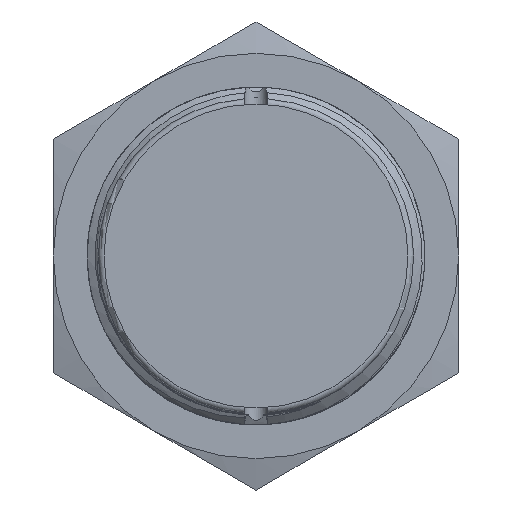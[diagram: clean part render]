
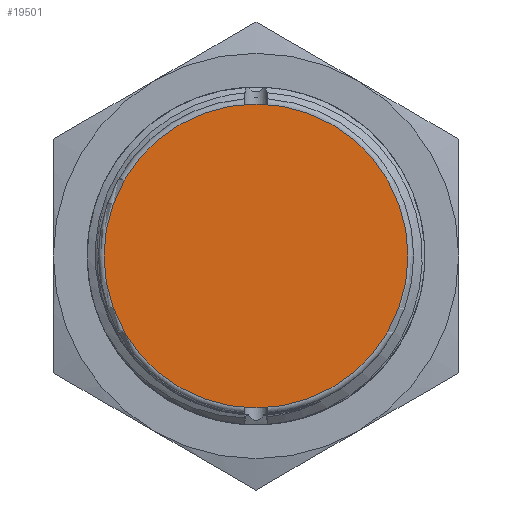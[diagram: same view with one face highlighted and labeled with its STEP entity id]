
A CAD part, left-side view. The second image highlights one B-rep face of the part: STEP entity #19501.
In plain terms, the highlighted planar face has unit normal (-1, 0, 0).
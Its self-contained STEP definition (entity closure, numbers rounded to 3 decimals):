
#8307=CARTESIAN_POINT('',(0.,0.,0.));
#8308=DIRECTION('',(-1.,0.,0.));
#8309=DIRECTION('',(0.,0.,-1.));
#8310=AXIS2_PLACEMENT_3D('',#8307,#8308,#8309);
#8320=CARTESIAN_POINT('',(0.,0.,13.5));
#8397=CARTESIAN_POINT('',(0.,0.,0.));
#8398=DIRECTION('',(-1.,0.,0.));
#8399=DIRECTION('',(0.,0.,1.));
#8400=AXIS2_PLACEMENT_3D('',#8397,#8398,#8399);
#8410=CARTESIAN_POINT('',(0.,0.,-13.5));
#11922=VERTEX_POINT('',#8320);
#11943=VERTEX_POINT('',#8410);
#19492=CARTESIAN_POINT('',(0.,0.,0.));
#19493=DIRECTION('',(-1.,0.,0.));
#19494=DIRECTION('',(0.,1.,0.));
#19495=AXIS2_PLACEMENT_3D('',#19492,#19493,#19494);
#19496=PLANE('',#19495);
#19497=ORIENTED_EDGE('',*,*,#19473,.F.);
#19498=ORIENTED_EDGE('',*,*,#19429,.F.);
#19499=EDGE_LOOP('',(#19497,#19498));
#19500=FACE_OUTER_BOUND('',#19499,.F.);
#8311=CIRCLE('',#8310,13.5);
#8401=CIRCLE('',#8400,13.5);
#19429=EDGE_CURVE('',#11943,#11922,#8311,.T.);
#19473=EDGE_CURVE('',#11922,#11943,#8401,.T.);
#19501=ADVANCED_FACE('',(#19500),#19496,.T.);
